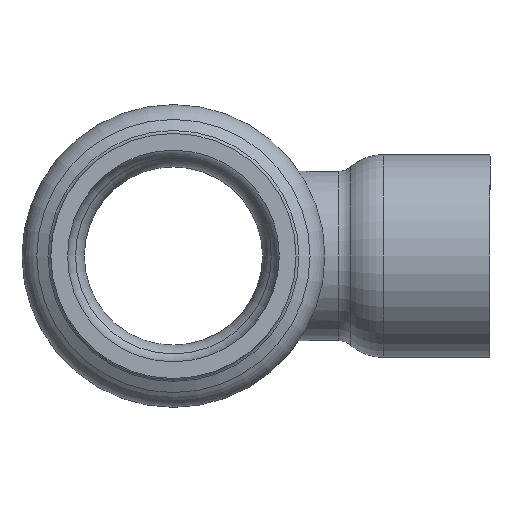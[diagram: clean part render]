
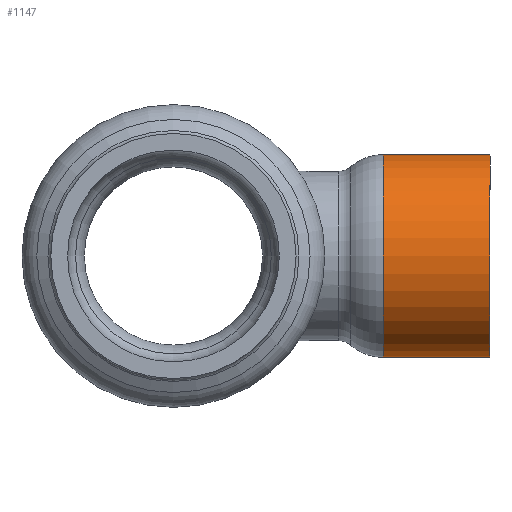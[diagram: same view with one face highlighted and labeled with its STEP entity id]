
A CAD part, left-side view. The second image highlights one B-rep face of the part: STEP entity #1147.
In plain terms, the highlighted cylindrical face has radius 12.776 mm (diameter 25.552 mm), a full revolution.
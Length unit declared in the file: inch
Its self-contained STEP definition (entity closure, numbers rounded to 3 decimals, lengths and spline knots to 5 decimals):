
#85=FACE_OUTER_BOUND('',#134,.T.);
#134=EDGE_LOOP('',(#728,#729,#730,#731,#732,#733));
#188=CIRCLE('',#1221,0.503);
#189=CIRCLE('',#1222,0.503);
#190=CIRCLE('',#1223,0.503);
#191=CIRCLE('',#1224,0.503);
#338=LINE('',#2013,#362);
#362=VECTOR('',#1450,0.503);
#404=VERTEX_POINT('',#2008);
#405=VERTEX_POINT('',#2009);
#406=VERTEX_POINT('',#2012);
#407=VERTEX_POINT('',#2014);
#542=EDGE_CURVE('',#404,#405,#188,.T.);
#543=EDGE_CURVE('',#405,#404,#189,.T.);
#544=EDGE_CURVE('',#405,#406,#338,.T.);
#545=EDGE_CURVE('',#406,#407,#190,.T.);
#546=EDGE_CURVE('',#407,#406,#191,.T.);
#728=ORIENTED_EDGE('',*,*,#542,.F.);
#729=ORIENTED_EDGE('',*,*,#543,.F.);
#730=ORIENTED_EDGE('',*,*,#544,.T.);
#731=ORIENTED_EDGE('',*,*,#545,.T.);
#732=ORIENTED_EDGE('',*,*,#546,.T.);
#733=ORIENTED_EDGE('',*,*,#544,.F.);
#1082=CYLINDRICAL_SURFACE('',#1220,0.503);
#1147=ADVANCED_FACE('',(#85),#1082,.T.);
#1220=AXIS2_PLACEMENT_3D('',#2007,#1444,#1445);
#1221=AXIS2_PLACEMENT_3D('',#2010,#1446,#1447);
#1222=AXIS2_PLACEMENT_3D('',#2011,#1448,#1449);
#1223=AXIS2_PLACEMENT_3D('',#2015,#1451,#1452);
#1224=AXIS2_PLACEMENT_3D('',#2016,#1453,#1454);
#1444=DIRECTION('center_axis',(0.,1.,0.));
#1445=DIRECTION('ref_axis',(0.,0.,1.));
#1446=DIRECTION('center_axis',(0.,1.,0.));
#1447=DIRECTION('ref_axis',(0.,0.,1.));
#1448=DIRECTION('center_axis',(0.,1.,0.));
#1449=DIRECTION('ref_axis',(0.,0.,1.));
#1450=DIRECTION('',(0.,-1.,0.));
#1451=DIRECTION('center_axis',(0.,1.,0.));
#1452=DIRECTION('ref_axis',(0.,0.,1.));
#1453=DIRECTION('center_axis',(0.,1.,0.));
#1454=DIRECTION('ref_axis',(0.,0.,1.));
#2007=CARTESIAN_POINT('Origin',(0.,-1.305,0.));
#2008=CARTESIAN_POINT('',(0.,-1.04,0.503));
#2009=CARTESIAN_POINT('',(0.,-1.04,-0.503));
#2010=CARTESIAN_POINT('Origin',(0.,-1.04,0.));
#2011=CARTESIAN_POINT('Origin',(0.,-1.04,0.));
#2012=CARTESIAN_POINT('',(0.,-1.57,-0.503));
#2013=CARTESIAN_POINT('',(0.,-1.305,-0.503));
#2014=CARTESIAN_POINT('',(0.,-1.57,0.503));
#2015=CARTESIAN_POINT('Origin',(0.,-1.57,0.));
#2016=CARTESIAN_POINT('Origin',(0.,-1.57,0.));
